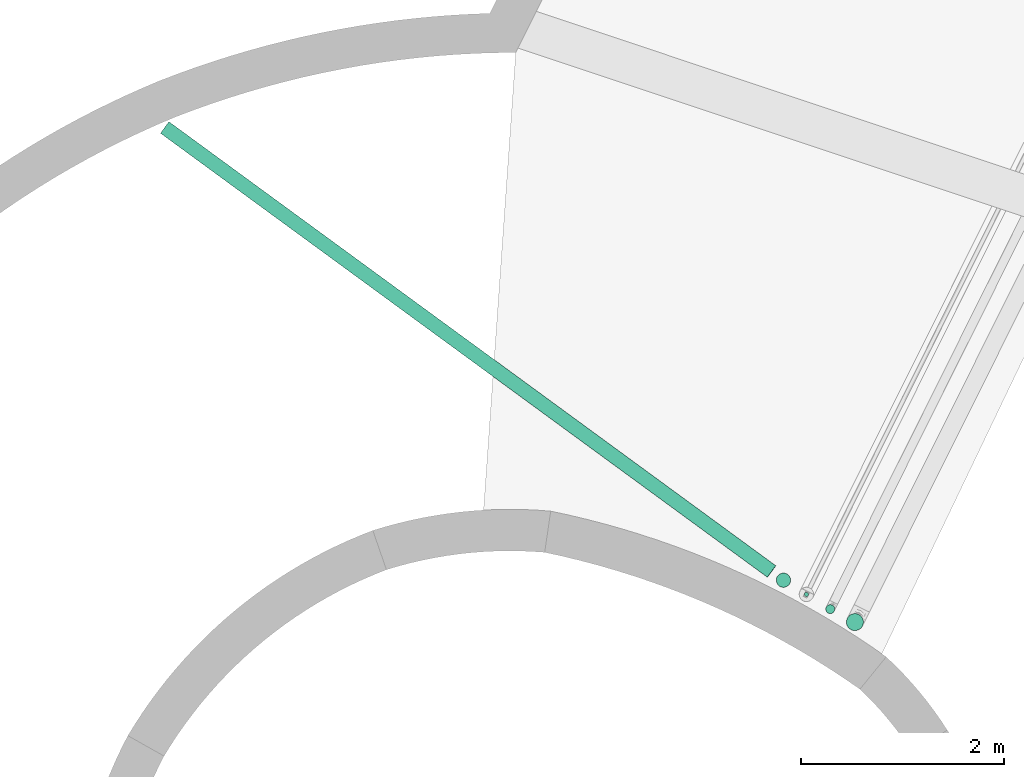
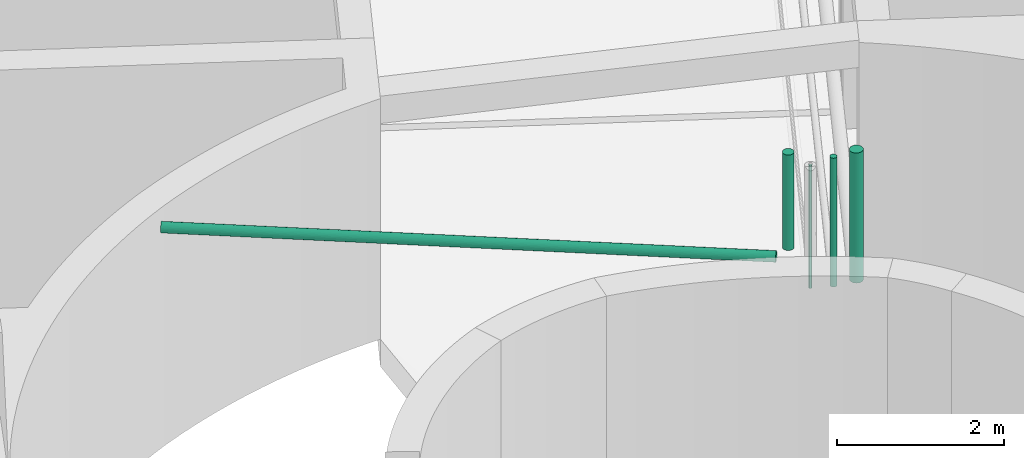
# One storey, part 21 of 47: 5 flow segments.
"""IFC2X3 building model written with IfcOpenShell, lengths in metres."""

from ifc_helpers import new_model, entity, si_unit, converted_unit, derived_unit, direction, frame, frame_2d, origin, origin_2d_with_axis, place, context, subcontext, project, spatial, circle, extrude, type_object, element, save


model = new_model("IFC2X3")

# Units and contexts
model_context = context("Model", 3, precision=1e-05, world=origin(), true_north=direction((0.894925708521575, 0.446215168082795)))
context_of_model = context(None, 3, precision=1e-05, world=origin(), true_north=direction((0.894925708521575, 0.446215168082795)))
body_context = subcontext(model_context, "Body", "Model", "MODEL_VIEW")
ifc_project = project(units=[si_unit("LENGTHUNIT", "METRE"), si_unit("AREAUNIT", "SQUARE_METRE"), si_unit("VOLUMEUNIT", "CUBIC_METRE"), converted_unit("PLANEANGLEUNIT", "DEGREE", entity("IfcRatioMeasure", 0.0174532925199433), si_unit("PLANEANGLEUNIT", "RADIAN"), dimensions=[0, 0, 0, 0, 0, 0, 0]), si_unit("MASSUNIT", "GRAM", prefix="KILO"), si_unit("TIMEUNIT", "SECOND"), si_unit("FREQUENCYUNIT", "HERTZ"), si_unit("THERMODYNAMICTEMPERATUREUNIT", "DEGREE_CELSIUS"), derived_unit("THERMALTRANSMITTANCEUNIT", [(si_unit("MASSUNIT", "GRAM", prefix="KILO"), 1), (si_unit("THERMODYNAMICTEMPERATUREUNIT", "KELVIN"), -1), (si_unit("TIMEUNIT", "SECOND"), -3)]), derived_unit("VOLUMETRICFLOWRATEUNIT", [(si_unit("LENGTHUNIT", "METRE"), 3), (si_unit("TIMEUNIT", "SECOND"), -1)]), si_unit("ELECTRICCURRENTUNIT", "AMPERE"), si_unit("ELECTRICVOLTAGEUNIT", "VOLT"), si_unit("POWERUNIT", "WATT"), si_unit("FORCEUNIT", "NEWTON", prefix="KILO"), si_unit("ILLUMINANCEUNIT", "LUX"), si_unit("LUMINOUSFLUXUNIT", "LUMEN"), si_unit("LUMINOUSINTENSITYUNIT", "CANDELA"), si_unit("PRESSUREUNIT", "PASCAL")], contexts=[model_context, context_of_model])

# Site, building, storey
site_placement = place(None, frame((218.228324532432, 584.720189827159, 0.0), z_axis=(0.0, 0.0, 1.0), x_axis=(0.446215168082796, 0.894925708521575, 0.0)))
site = spatial("IfcSite", under=ifc_project, at=site_placement, Name="Default", CompositionType="ELEMENT")
building_placement = place(site_placement, origin())
building = spatial("IfcBuilding", under=site, at=building_placement, CompositionType="ELEMENT")
storey_placement = place(building_placement, frame((0.0, 0.0, 4.69)))
storey = spatial("IfcBuildingStorey", under=building, at=storey_placement, Name="1 - Piano Primo", CompositionType="ELEMENT", Elevation=4.69)

# Flow segments
pipe_segment_type_1 = type_object("IfcPipeSegmentType", Name="Tubazione:Pluviale-Tubazione", PredefinedType="NOTDEFINED")
flow_segment_1_placement = place(storey_placement, frame((-68.5292543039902, -3.75649197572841, 3.22831349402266)))
element("IfcFlowSegment", 1, at=flow_segment_1_placement, inside=storey, type_object=pipe_segment_type_1, Name="Tubazione:Pluviale-Tubazione", ObjectType="Tubazione:Pluviale-Tubazione", context=body_context, shape_type="SweptSolid", body=[
    extrude(circle(Radius=0.0706501, at=frame_2d((9.11293732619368e-17, 1.07338768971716e-15), x_axis=(1.0, 0.0))), frame((1.31920011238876, 7.32231996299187, 0.0722346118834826), z_axis=(-0.168285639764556, -0.985583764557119, 0.0174524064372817), x_axis=(0.985733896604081, -0.168311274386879, 0.0)), (0.0, 0.0, 1.0), 7.41574054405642),
])
flow_segment_2_placement = place(storey_placement, frame((-68.5546518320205, -3.95809145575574, 3.5774299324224)))
element("IfcFlowSegment", 2, at=flow_segment_2_placement, inside=storey, type_object=pipe_segment_type_1, Name="Tubazione:Pluviale-Tubazione", ObjectType="Tubazione:Pluviale-Tubazione", context=body_context, shape_type="SweptSolid", body=[
    extrude(circle(Radius=0.0706501, at=origin_2d_with_axis()), frame((0.0722453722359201, 0.0722453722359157, 0.0), z_axis=(0.0, 0.0, 1.0), x_axis=(-1.0, 0.0, 0.0)), (0.0, 0.0, 1.0), 1.39630756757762),
])
pipe_segment_type_2 = type_object("IfcPipeSegmentType", Name="Tubazione:Antincendio-Tubazione", PredefinedType="NOTDEFINED")
flow_segment_3_placement = place(storey_placement, frame((-68.5295434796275, -4.17375626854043, 2.99199999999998)))
element("IfcFlowSegment", 3, at=flow_segment_3_placement, inside=storey, type_object=pipe_segment_type_2, Name="Tubazione:Antincendio-Tubazione", ObjectType="Tubazione:Antincendio-Tubazione", context=body_context, shape_type="SweptSolid", body=[
    extrude(circle(Radius=0.021082, at=frame_2d((0.0, 5.41433564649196e-16), x_axis=(1.0, 0.0))), frame((0.0226772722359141, 0.0226772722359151, 0.0)), (0.0, 0.0, 1.0), 1.79600000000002),
])
flow_segment_4_placement = place(storey_placement, frame((-68.6233199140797, -4.78681176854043, 3.11199999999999)))
element("IfcFlowSegment", 4, at=flow_segment_4_placement, inside=storey, type_object=pipe_segment_type_2, Name="Tubazione:Antincendio-Tubazione", ObjectType="Tubazione:Antincendio-Tubazione", context=body_context, shape_type="SweptSolid", body=[
    extrude(circle(Radius=0.0841375, at=frame_2d((-8.66293703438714e-15, -5.41433564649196e-16), x_axis=(1.0, 0.0))), frame((0.0857327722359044, 0.0857327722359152, 0.0), z_axis=(0.0, 0.0, 1.0), x_axis=(-1.0, 0.0, 0.0)), (0.0, 0.0, 1.0), 1.90499998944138),
])
flow_segment_5_placement = place(storey_placement, frame((-68.5782719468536, -4.47212426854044, 3.03599999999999)))
element("IfcFlowSegment", 5, at=flow_segment_5_placement, inside=storey, type_object=pipe_segment_type_2, Name="Tubazione:Antincendio-Tubazione", ObjectType="Tubazione:Antincendio-Tubazione", context=body_context, shape_type="SweptSolid", body=[
    extrude(circle(Radius=0.04445, at=frame_2d((0.0, -5.41433564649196e-16), x_axis=(1.0, 0.0))), frame((0.0460452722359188, 0.0460452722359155, 0.0), z_axis=(0.0, 0.0, 1.0), x_axis=(-1.0, 0.0, 0.0)), (0.0, 0.0, 1.0), 1.88499999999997),
])

save(model, "model.ifc")
